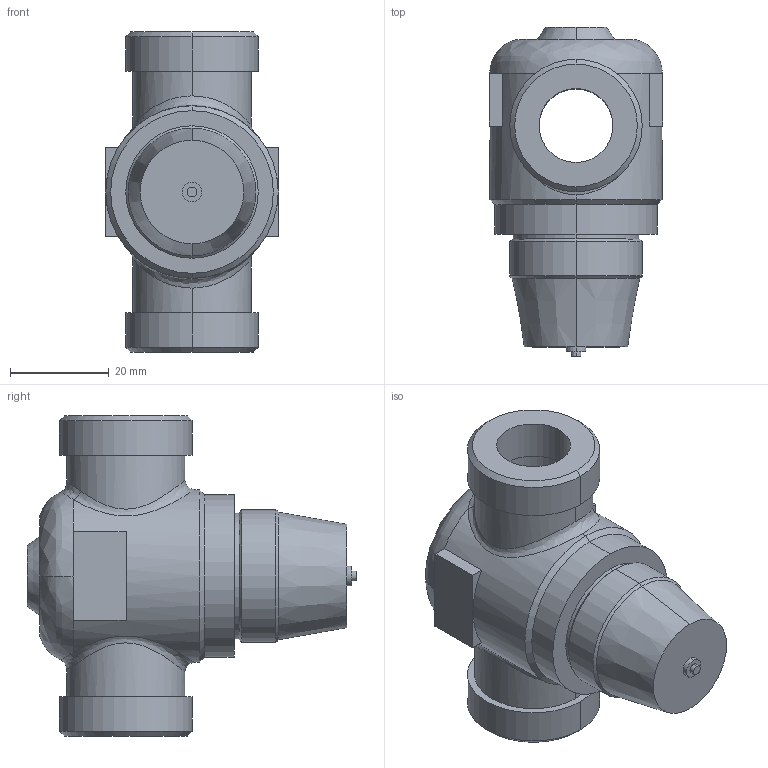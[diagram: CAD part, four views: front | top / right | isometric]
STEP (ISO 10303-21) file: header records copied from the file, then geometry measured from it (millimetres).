
FILE_DESCRIPTION((''),'2;1');
FILE_NAME('000381.dwg.stp','2006-10-04T11:28:50',(''),(''),'Mechanical Desktop 2006','Mechanical Desktop 2006',', , ');
FILE_SCHEMA(('AUTOMOTIVE_DESIGN { 1 2 10303 214 0 1 1 1 }'));
Length unit declared in the file: millimetre
Products named in the file (1): Product
Bounding box: 35.28 x 66.9 x 65 mm (x, y, z)
Volume: 53094.5 mm3; surface area: 17688.5 mm2
Topology: 8 solids, 8 shells, 75 faces, 154 edges, 96 vertices
Faces by surface type: plane 26, cylinder 24, cone 14, bspline 11
Entity records: 2893 total; most frequent: CARTESIAN_POINT 1239, DIRECTION 350, ORIENTED_EDGE 308, EDGE_CURVE 154, AXIS2_PLACEMENT_3D 145, VERTEX_POINT 96, EDGE_LOOP 82, CIRCLE 80
